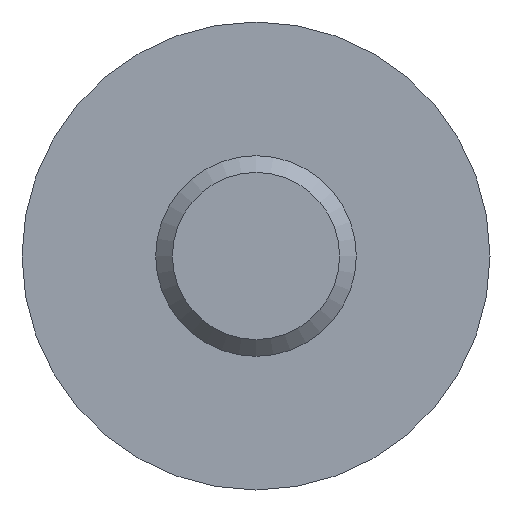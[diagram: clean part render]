
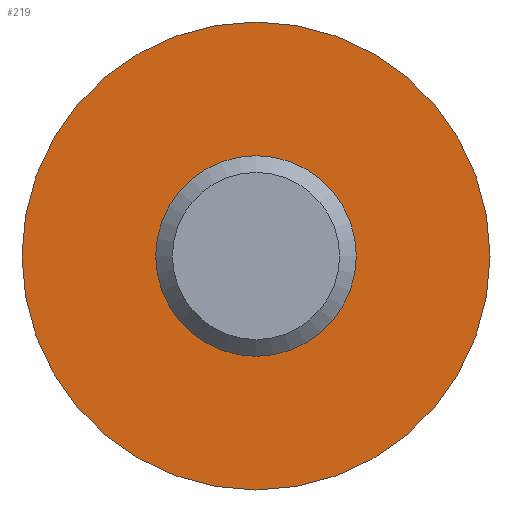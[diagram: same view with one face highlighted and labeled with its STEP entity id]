
A CAD part, front view. The second image highlights one B-rep face of the part: STEP entity #219.
In plain terms, the highlighted planar face has unit normal (0, -1, 0).
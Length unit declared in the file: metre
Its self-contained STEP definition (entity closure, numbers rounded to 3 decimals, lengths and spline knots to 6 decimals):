
#45=PLANE('',#242);
#53=FACE_BOUND('',#79,.T.);
#62=FACE_OUTER_BOUND('',#78,.T.);
#78=EDGE_LOOP('',(#168));
#79=EDGE_LOOP('',(#169));
#101=CIRCLE('',#243,0.007);
#102=CIRCLE('',#244,0.003);
#118=VERTEX_POINT('',#391);
#119=VERTEX_POINT('',#393);
#139=EDGE_CURVE('',#118,#118,#101,.T.);
#140=EDGE_CURVE('',#119,#119,#102,.T.);
#168=ORIENTED_EDGE('',*,*,#139,.T.);
#169=ORIENTED_EDGE('',*,*,#140,.F.);
#219=ADVANCED_FACE('',(#62,#53),#45,.T.);
#242=AXIS2_PLACEMENT_3D('',#390,#278,#279);
#243=AXIS2_PLACEMENT_3D('',#392,#280,#281);
#244=AXIS2_PLACEMENT_3D('',#394,#282,#283);
#278=DIRECTION('center_axis',(0.,-1.,0.));
#279=DIRECTION('ref_axis',(0.,0.,-1.));
#280=DIRECTION('center_axis',(0.,-1.,0.));
#281=DIRECTION('ref_axis',(1.,0.,0.));
#282=DIRECTION('center_axis',(0.,-1.,0.));
#283=DIRECTION('ref_axis',(1.,0.,0.));
#390=CARTESIAN_POINT('Origin',(0.007,0.,0.));
#391=CARTESIAN_POINT('',(0.007,0.,0.));
#392=CARTESIAN_POINT('Origin',(0.,0.,
0.));
#393=CARTESIAN_POINT('',(0.003,0.,0.));
#394=CARTESIAN_POINT('Origin',(0.,0.,0.));
